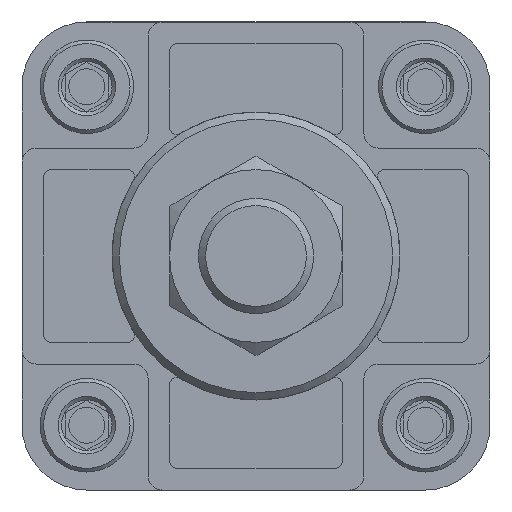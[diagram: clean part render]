
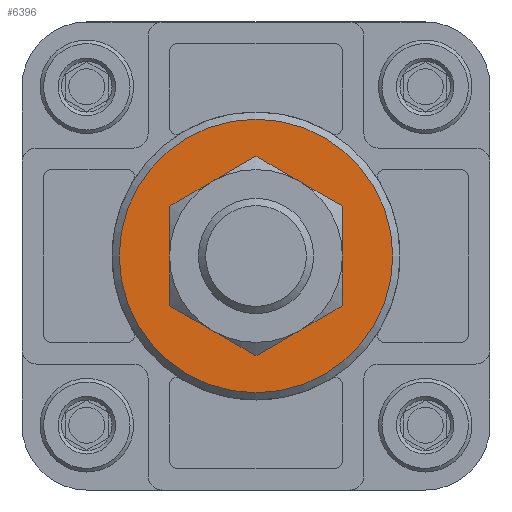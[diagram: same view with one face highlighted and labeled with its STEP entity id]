
A CAD part, front view. The second image highlights one B-rep face of the part: STEP entity #6396.
In plain terms, the highlighted planar face has unit normal (0, -1, 0).
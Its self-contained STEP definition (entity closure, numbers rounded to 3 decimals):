
#1000=ORIENTED_EDGE('',*,*,#2338,.T.);
#1001=ORIENTED_EDGE('',*,*,#2340,.T.);
#2338=EDGE_CURVE('',#3009,#3009,#3482,.T.);
#2340=EDGE_CURVE('',#3011,#3011,#3484,.F.);
#3009=VERTEX_POINT('',#8815);
#3011=VERTEX_POINT('',#8821);
#3482=CIRCLE('',#6722,11.);
#3484=CIRCLE('',#6726,19.);
#3751=EDGE_LOOP('',(#1000));
#3752=EDGE_LOOP('',(#1001));
#4157=FACE_BOUND('',#3751,.T.);
#4158=FACE_BOUND('',#3752,.T.);
#4557=PLANE('',#6725);
#6396=ADVANCED_FACE('',(#4157,#4158),#4557,.F.);
#6722=AXIS2_PLACEMENT_3D('',#8814,#7300,#7301);
#6725=AXIS2_PLACEMENT_3D('',#8819,#7306,#7307);
#6726=AXIS2_PLACEMENT_3D('',#8820,#7308,#7309);
#7300=DIRECTION('',(0.,1.,0.));
#7301=DIRECTION('',(0.,0.,1.));
#7306=DIRECTION('',(0.,1.,0.));
#7307=DIRECTION('',(0.,0.,1.));
#7308=DIRECTION('',(0.,1.,0.));
#7309=DIRECTION('',(0.,0.,1.));
#8814=CARTESIAN_POINT('',(0.,-50.,0.));
#8815=CARTESIAN_POINT('',(0.,-50.,11.));
#8819=CARTESIAN_POINT('',(0.,-50.,0.));
#8820=CARTESIAN_POINT('',(0.,-50.,0.));
#8821=CARTESIAN_POINT('',(0.,-50.,19.));
